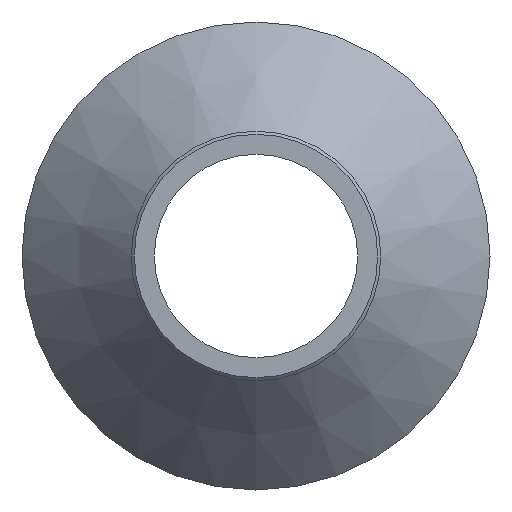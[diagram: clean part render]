
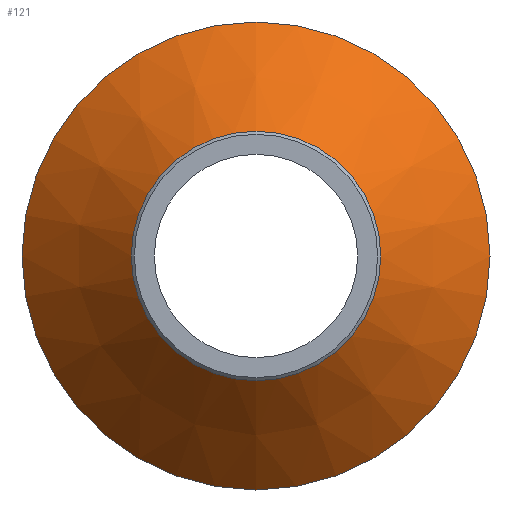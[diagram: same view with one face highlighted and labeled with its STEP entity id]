
A CAD part, left-side view. The second image highlights one B-rep face of the part: STEP entity #121.
In plain terms, the highlighted conical face has half-angle 42.647 degrees and reference radius 37.5 mm.
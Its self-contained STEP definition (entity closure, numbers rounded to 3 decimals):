
#22=CONICAL_SURFACE('',#146,37.5,0.744);
#28=ORIENTED_EDGE('',*,*,#48,.F.);
#29=ORIENTED_EDGE('',*,*,#47,.T.);
#47=EDGE_CURVE('',#57,#57,#67,.T.);
#48=EDGE_CURVE('',#58,#58,#68,.T.);
#57=VERTEX_POINT('',#210);
#58=VERTEX_POINT('',#213);
#67=CIRCLE('',#145,37.5);
#68=CIRCLE('',#147,20.);
#78=EDGE_LOOP('',(#28));
#79=EDGE_LOOP('',(#29));
#98=FACE_BOUND('',#78,.T.);
#99=FACE_BOUND('',#79,.T.);
#121=ADVANCED_FACE('',(#98,#99),#22,.T.);
#145=AXIS2_PLACEMENT_3D('',#209,#169,#170);
#146=AXIS2_PLACEMENT_3D('',#211,#171,#172);
#147=AXIS2_PLACEMENT_3D('',#212,#173,#174);
#169=DIRECTION('',(-1.,0.,0.));
#170=DIRECTION('',(0.,0.,1.));
#171=DIRECTION('',(1.,0.,0.));
#172=DIRECTION('',(0.,0.,-1.));
#173=DIRECTION('',(-1.,0.,0.));
#174=DIRECTION('',(0.,0.,1.));
#209=CARTESIAN_POINT('',(9.5,0.,0.));
#210=CARTESIAN_POINT('',(9.5,0.,37.5));
#211=CARTESIAN_POINT('',(9.5,0.,0.));
#212=CARTESIAN_POINT('',(-9.5,0.,0.));
#213=CARTESIAN_POINT('',(-9.5,0.,20.));
